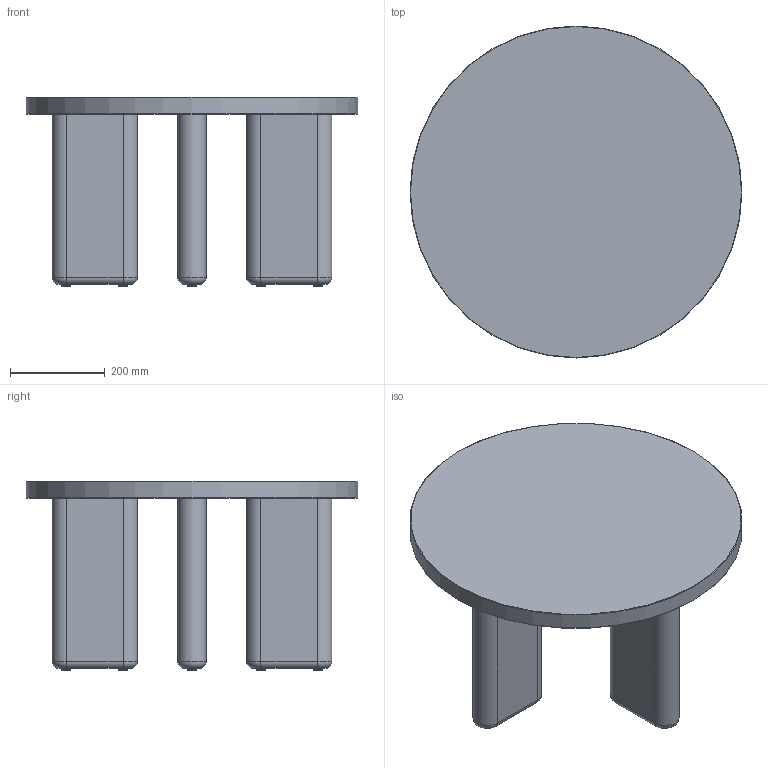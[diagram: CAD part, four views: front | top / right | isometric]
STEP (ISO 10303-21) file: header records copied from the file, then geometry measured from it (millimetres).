
FILE_DESCRIPTION(/* description */ ('Unknown'),/* implementation_level */ '2;1');
FILE_NAME(/* name */ 'MIN002-700_DIA-r-E',/* time_stamp */ '2024-07-15T07:45:28+10:00',/* author */ ('Unknown'),/* organization */ ('Unknown'),/* preprocessor_version */ 'ST-DEVELOPER v16.7',/* originating_system */ 'Solid Edge',/* authorisation */ 'Unknown');
FILE_SCHEMA (('AUTOMOTIVE_DESIGN {1 0 10303 214 3 1 1}'));
Length unit declared in the file: millimetre
Products named in the file (7): MIN002-700_DIA-r-E; PLASTIC_NAIL_GLIDE_MIN; MIN109-LEG_BRKT-r-C; CSK TORX WOOD SCREW M8X80 ; M6X20_CSK_HEX; MIN104-LEG_180Lx359H-r-C; MIN103-700_DIA_TOP-r-D
Assembly tree (53 placements, depth 2):
  MIN002-700_DIA-r-E
    PLASTIC_NAIL_GLIDE_MIN  x8
    MIN109-LEG_BRKT-r-C  x8
    CSK TORX WOOD SCREW M8X80   x16
    M6X20_CSK_HEX  x16
    MIN104-LEG_180Lx359H-r-C  x4
    MIN103-700_DIA_TOP-r-D
Bounding box: 700 x 700 x 400 mm (x, y, z)
Volume: 28157588.4 mm3; surface area: 1698397.5 mm2
Topology: 53 solids, 53 shells, 1509 faces, 3455 edges, 2116 vertices
Faces by surface type: plane 802, cylinder 401, cone 208, torus 82, sphere 16
Full cylindrical faces by diameter (mm): 1 x8, 3.5 x16, 4 x16, 5 x16, 6 x32, 7 x16, 10 x16, 11.7 x16, 15 x16, 19 x8, 700 x1
Entity records: 5480 total; most frequent: DIRECTION 986, CARTESIAN_POINT 870, ORIENTED_EDGE 688, AXIS2_PLACEMENT_3D 410, EDGE_CURVE 344, EDGE_LOOP 278, FACE_BOUND 278, VERTEX_POINT 246
